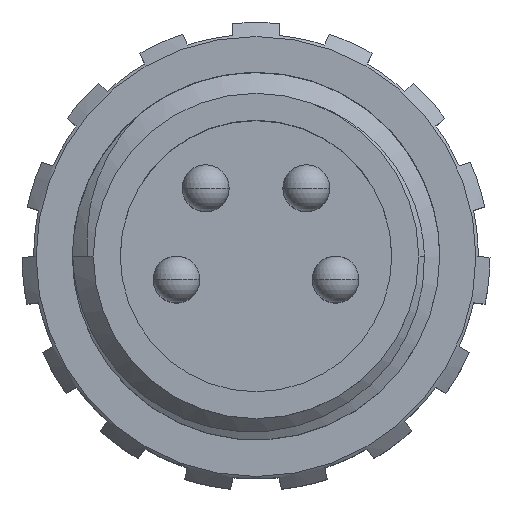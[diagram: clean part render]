
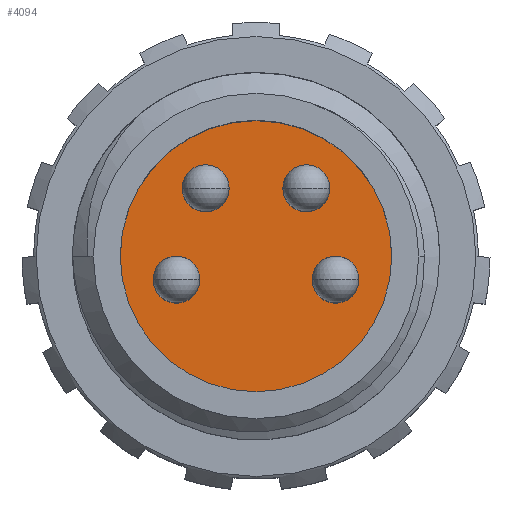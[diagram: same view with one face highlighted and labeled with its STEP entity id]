
A CAD part, top view. The second image highlights one B-rep face of the part: STEP entity #4094.
In plain terms, the highlighted planar face has unit normal (0, 0, 1).
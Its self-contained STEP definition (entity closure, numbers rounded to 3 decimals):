
#24 = AXIS2_PLACEMENT_3D ( 'NONE', #3546, #7065, #1547 ) ;
#143 = DIRECTION ( 'NONE',  ( 0., 0., 1. ) ) ;
#246 = ORIENTED_EDGE ( 'NONE', *, *, #3781, .T. ) ;
#293 = VERTEX_POINT ( 'NONE', #3795 ) ;
#422 = EDGE_CURVE ( 'NONE', #293, #933, #3014, .T. ) ;
#426 = EDGE_CURVE ( 'NONE', #3124, #8027, #1921, .T. ) ;
#479 = CIRCLE ( 'NONE', #5263, 0.5 ) ;
#487 = EDGE_CURVE ( 'NONE', #933, #293, #4387, .T. ) ;
#491 = FACE_OUTER_BOUND ( 'NONE', #895, .T. ) ;
#725 = AXIS2_PLACEMENT_3D ( 'NONE', #6288, #3819, #5595 ) ;
#782 = CARTESIAN_POINT ( 'NONE',  ( 1.7, -0.5, -5. ) ) ;
#828 = EDGE_CURVE ( 'NONE', #1389, #3576, #3062, .T. ) ;
#889 = AXIS2_PLACEMENT_3D ( 'NONE', #782, #3381, #2725 ) ;
#895 = EDGE_LOOP ( 'NONE', ( #5325, #6892 ) ) ;
#933 = VERTEX_POINT ( 'NONE', #1749 ) ;
#1227 = DIRECTION ( 'NONE',  ( -1., 0., 0. ) ) ;
#1367 = VERTEX_POINT ( 'NONE', #4902 ) ;
#1370 = DIRECTION ( 'NONE',  ( -1., 0., 0. ) ) ;
#1389 = VERTEX_POINT ( 'NONE', #6757 ) ;
#1463 = EDGE_CURVE ( 'NONE', #8027, #3124, #6890, .T. ) ;
#1547 = DIRECTION ( 'NONE',  ( -1., 0., 0. ) ) ;
#1552 = CARTESIAN_POINT ( 'NONE',  ( -0.575, 1.45, -5. ) ) ;
#1639 = CARTESIAN_POINT ( 'NONE',  ( 0., 0., -5. ) ) ;
#1661 = ORIENTED_EDGE ( 'NONE', *, *, #3503, .T. ) ;
#1684 = CARTESIAN_POINT ( 'NONE',  ( 1.575, 1.45, -5. ) ) ;
#1749 = CARTESIAN_POINT ( 'NONE',  ( 2.2, -0.5, -5. ) ) ;
#1921 = CIRCLE ( 'NONE', #6072, 2.9 ) ;
#2153 = DIRECTION ( 'NONE',  ( 0., 0., -1. ) ) ;
#2269 = PLANE ( 'NONE',  #4598 ) ;
#2350 = CARTESIAN_POINT ( 'NONE',  ( 0., 3.069, -5. ) ) ;
#2500 = ORIENTED_EDGE ( 'NONE', *, *, #422, .T. ) ;
#2715 = DIRECTION ( 'NONE',  ( -1., 0., 0. ) ) ;
#2725 = DIRECTION ( 'NONE',  ( -1., 0., 0. ) ) ;
#2847 = CARTESIAN_POINT ( 'NONE',  ( 1.7, -0.5, -5. ) ) ;
#2931 = CIRCLE ( 'NONE', #725, 0.5 ) ;
#2957 = FACE_BOUND ( 'NONE', #7217, .T. ) ;
#3014 = CIRCLE ( 'NONE', #889, 0.5 ) ;
#3062 = CIRCLE ( 'NONE', #7335, 0.5 ) ;
#3089 = DIRECTION ( 'NONE',  ( 0., 0., 1. ) ) ;
#3124 = VERTEX_POINT ( 'NONE', #4594 ) ;
#3195 = ORIENTED_EDGE ( 'NONE', *, *, #6836, .T. ) ;
#3381 = DIRECTION ( 'NONE',  ( 0., 0., -1. ) ) ;
#3454 = FACE_BOUND ( 'NONE', #5374, .T. ) ;
#3503 = EDGE_CURVE ( 'NONE', #3576, #1389, #479, .T. ) ;
#3506 = DIRECTION ( 'NONE',  ( 1., 0., 0. ) ) ;
#3546 = CARTESIAN_POINT ( 'NONE',  ( -1.075, 1.45, -5. ) ) ;
#3576 = VERTEX_POINT ( 'NONE', #6867 ) ;
#3763 = VERTEX_POINT ( 'NONE', #4183 ) ;
#3781 = EDGE_CURVE ( 'NONE', #4711, #3763, #2931, .T. ) ;
#3795 = CARTESIAN_POINT ( 'NONE',  ( 1.2, -0.5, -5. ) ) ;
#3803 = EDGE_CURVE ( 'NONE', #7804, #1367, #4998, .T. ) ;
#3817 = DIRECTION ( 'NONE',  ( 0., 0., -1. ) ) ;
#3819 = DIRECTION ( 'NONE',  ( 0., 0., -1. ) ) ;
#3851 = CARTESIAN_POINT ( 'NONE',  ( 1.075, 1.45, -5. ) ) ;
#4094 = ADVANCED_FACE ( 'NONE', ( #4216, #6563, #491, #2957, #3454 ), #2269, .F. ) ;
#4172 = DIRECTION ( 'NONE',  ( -1., 0., 0. ) ) ;
#4183 = CARTESIAN_POINT ( 'NONE',  ( 0.575, 1.45, -5. ) ) ;
#4216 = FACE_BOUND ( 'NONE', #7239, .T. ) ;
#4387 = CIRCLE ( 'NONE', #6450, 0.5 ) ;
#4448 = DIRECTION ( 'NONE',  ( 1., 0., 0. ) ) ;
#4449 = CIRCLE ( 'NONE', #6260, 0.5 ) ;
#4512 = CARTESIAN_POINT ( 'NONE',  ( 2.9, 0., -5. ) ) ;
#4594 = CARTESIAN_POINT ( 'NONE',  ( -2.9, 0., -5. ) ) ;
#4598 = AXIS2_PLACEMENT_3D ( 'NONE', #2350, #5996, #4172 ) ;
#4668 = EDGE_LOOP ( 'NONE', ( #6123, #7996 ) ) ;
#4711 = VERTEX_POINT ( 'NONE', #1684 ) ;
#4902 = CARTESIAN_POINT ( 'NONE',  ( -1.575, 1.45, -5. ) ) ;
#4997 = ORIENTED_EDGE ( 'NONE', *, *, #828, .T. ) ;
#4998 = CIRCLE ( 'NONE', #5904, 0.5 ) ;
#5051 = EDGE_CURVE ( 'NONE', #1367, #7804, #6885, .T. ) ;
#5231 = DIRECTION ( 'NONE',  ( 0., 0., -1. ) ) ;
#5263 = AXIS2_PLACEMENT_3D ( 'NONE', #5631, #3817, #6286 ) ;
#5325 = ORIENTED_EDGE ( 'NONE', *, *, #1463, .T. ) ;
#5374 = EDGE_LOOP ( 'NONE', ( #7540, #2500 ) ) ;
#5476 = AXIS2_PLACEMENT_3D ( 'NONE', #7409, #143, #4448 ) ;
#5595 = DIRECTION ( 'NONE',  ( -1., 0., 0. ) ) ;
#5631 = CARTESIAN_POINT ( 'NONE',  ( -1.7, -0.5, -5. ) ) ;
#5904 = AXIS2_PLACEMENT_3D ( 'NONE', #6813, #3089, #1227 ) ;
#5996 = DIRECTION ( 'NONE',  ( 0., 0., -1. ) ) ;
#6072 = AXIS2_PLACEMENT_3D ( 'NONE', #1639, #7798, #3506 ) ;
#6123 = ORIENTED_EDGE ( 'NONE', *, *, #3803, .F. ) ;
#6260 = AXIS2_PLACEMENT_3D ( 'NONE', #3851, #6398, #1370 ) ;
#6286 = DIRECTION ( 'NONE',  ( -1., 0., 0. ) ) ;
#6288 = CARTESIAN_POINT ( 'NONE',  ( 1.075, 1.45, -5. ) ) ;
#6398 = DIRECTION ( 'NONE',  ( 0., 0., -1. ) ) ;
#6450 = AXIS2_PLACEMENT_3D ( 'NONE', #2847, #2153, #7151 ) ;
#6525 = CARTESIAN_POINT ( 'NONE',  ( -1.7, -0.5, -5. ) ) ;
#6563 = FACE_BOUND ( 'NONE', #4668, .T. ) ;
#6757 = CARTESIAN_POINT ( 'NONE',  ( -2.2, -0.5, -5. ) ) ;
#6813 = CARTESIAN_POINT ( 'NONE',  ( -1.075, 1.45, -5. ) ) ;
#6836 = EDGE_CURVE ( 'NONE', #3763, #4711, #4449, .T. ) ;
#6867 = CARTESIAN_POINT ( 'NONE',  ( -1.2, -0.5, -5. ) ) ;
#6885 = CIRCLE ( 'NONE', #24, 0.5 ) ;
#6890 = CIRCLE ( 'NONE', #5476, 2.9 ) ;
#6892 = ORIENTED_EDGE ( 'NONE', *, *, #426, .T. ) ;
#7065 = DIRECTION ( 'NONE',  ( 0., 0., 1. ) ) ;
#7151 = DIRECTION ( 'NONE',  ( -1., 0., 0. ) ) ;
#7217 = EDGE_LOOP ( 'NONE', ( #1661, #4997 ) ) ;
#7239 = EDGE_LOOP ( 'NONE', ( #246, #3195 ) ) ;
#7335 = AXIS2_PLACEMENT_3D ( 'NONE', #6525, #5231, #2715 ) ;
#7409 = CARTESIAN_POINT ( 'NONE',  ( 0., 0., -5. ) ) ;
#7540 = ORIENTED_EDGE ( 'NONE', *, *, #487, .T. ) ;
#7798 = DIRECTION ( 'NONE',  ( 0., 0., 1. ) ) ;
#7804 = VERTEX_POINT ( 'NONE', #1552 ) ;
#7996 = ORIENTED_EDGE ( 'NONE', *, *, #5051, .F. ) ;
#8027 = VERTEX_POINT ( 'NONE', #4512 ) ;
